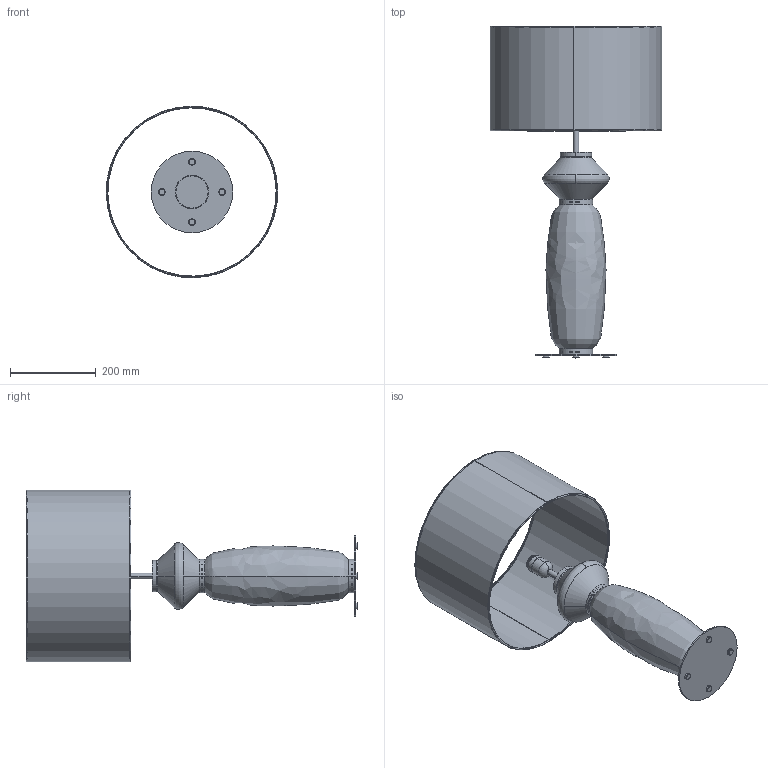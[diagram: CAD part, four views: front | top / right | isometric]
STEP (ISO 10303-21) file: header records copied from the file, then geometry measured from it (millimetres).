
FILE_DESCRIPTION (( 'STEP AP214' ), '1' );
FILE_NAME ('PAPI_NAC142.STEP', '2025-03-14T09:10:08', ( '' ), ( '' ), 'SwSTEP 2.0', 'SolidWorks 2018', '' );
FILE_SCHEMA (( 'AUTOMOTIVE_DESIGN' ));
Length unit declared in the file: millimetre
Products named in the file (1): PAPI_NAC142
Bounding box: 399.89 x 773 x 399.89 mm (x, y, z)
Volume: 1088323.9 mm3; surface area: 1116171.7 mm2
Topology: 15 solids, 17 shells, 186 faces, 410 edges, 257 vertices
Faces by surface type: cylinder 70, bspline 66, torus 26, plane 24
Entity records: 15369 total; most frequent: CARTESIAN_POINT 9803, ORIENTED_EDGE 820, DIRECTION 533, EDGE_CURVE 410, VERTEX_POINT 257, AXIS2_PLACEMENT_3D 231, EDGE_LOOP 203, UNCERTAINTY_MEASURE_WITH_UNIT 203
